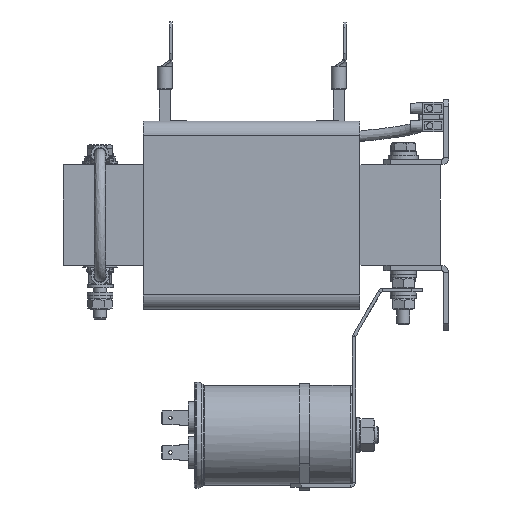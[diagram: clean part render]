
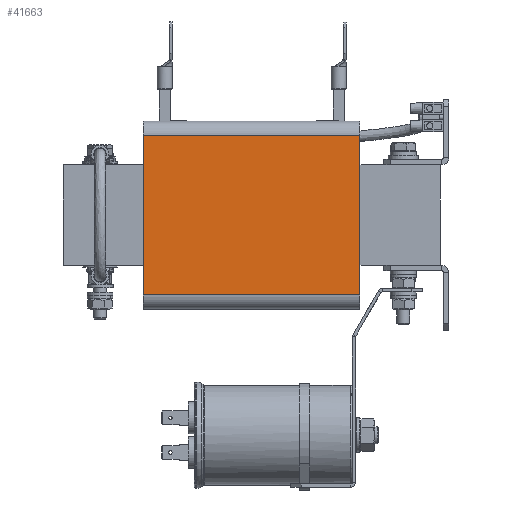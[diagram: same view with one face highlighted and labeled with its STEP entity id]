
A CAD part, left-side view. The second image highlights one B-rep face of the part: STEP entity #41663.
In plain terms, the highlighted planar face has unit normal (-1, 0, 0).
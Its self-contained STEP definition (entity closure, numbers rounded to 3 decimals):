
#2496=PLANE('',#44771);
#4990=FACE_OUTER_BOUND('',#7434,.T.);
#7434=EDGE_LOOP('',(#35920,#35921,#35922,#35923));
#7833=LINE('',#55903,#11425);
#7843=LINE('',#55936,#11435);
#11042=LINE('',#71332,#14634);
#11043=LINE('',#71334,#14635);
#11425=VECTOR('',#45477,10.);
#11435=VECTOR('',#45501,10.);
#14634=VECTOR('',#54074,10.);
#14635=VECTOR('',#54077,10.);
#16323=VERTEX_POINT('',#55900);
#16324=VERTEX_POINT('',#55902);
#16339=VERTEX_POINT('',#55933);
#16340=VERTEX_POINT('',#55935);
#20208=EDGE_CURVE('',#16323,#16324,#7833,.T.);
#20224=EDGE_CURVE('',#16339,#16340,#7843,.T.);
#25216=EDGE_CURVE('',#16339,#16324,#11042,.T.);
#25217=EDGE_CURVE('',#16340,#16323,#11043,.T.);
#35920=ORIENTED_EDGE('',*,*,#25217,.F.);
#35921=ORIENTED_EDGE('',*,*,#20224,.F.);
#35922=ORIENTED_EDGE('',*,*,#25216,.T.);
#35923=ORIENTED_EDGE('',*,*,#20208,.F.);
#41663=ADVANCED_FACE('',(#4990),#2496,.T.);
#44771=AXIS2_PLACEMENT_3D('',#71333,#54075,#54076);
#45477=DIRECTION('',(0.,0.,-1.));
#45501=DIRECTION('',(0.,0.,1.));
#54074=DIRECTION('',(0.,-1.,0.));
#54075=DIRECTION('center_axis',(-1.,0.,0.));
#54076=DIRECTION('ref_axis',(0.,0.,1.));
#54077=DIRECTION('',(0.,-1.,0.));
#55900=CARTESIAN_POINT('',(-101.,-50.,36.8));
#55902=CARTESIAN_POINT('',(-101.,-50.,-36.8));
#55903=CARTESIAN_POINT('',(-101.,-50.,36.8));
#55933=CARTESIAN_POINT('',(-101.,50.,-36.8));
#55935=CARTESIAN_POINT('',(-101.,50.,36.8));
#55936=CARTESIAN_POINT('',(-101.,50.,36.8));
#71332=CARTESIAN_POINT('',(-101.,0.,-36.8));
#71333=CARTESIAN_POINT('Origin',(-101.,0.,-36.8));
#71334=CARTESIAN_POINT('',(-101.,0.,36.8));
